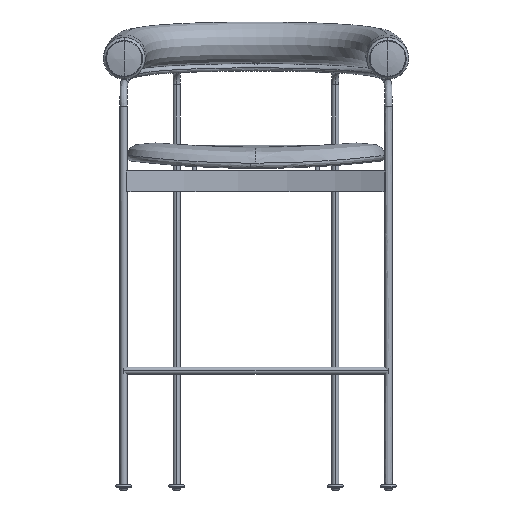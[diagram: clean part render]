
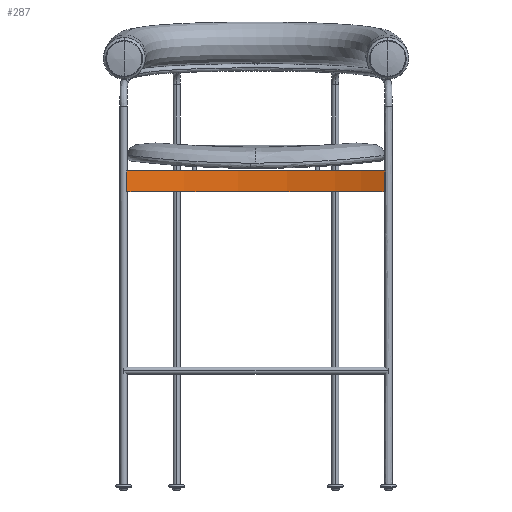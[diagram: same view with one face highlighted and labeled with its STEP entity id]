
A CAD part, front view. The second image highlights one B-rep face of the part: STEP entity #287.
In plain terms, the highlighted cylindrical face has radius 661.115 mm (diameter 1322.23 mm), a partial arc.
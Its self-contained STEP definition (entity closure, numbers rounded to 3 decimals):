
#287=ADVANCED_FACE('',(#467),#2303,.F.);
#467=FACE_OUTER_BOUND('',#647,.T.);
#647=EDGE_LOOP('',(#1024,#1025,#1026,#1027));
#1024=ORIENTED_EDGE('',*,*,#1544,.T.);
#1025=ORIENTED_EDGE('',*,*,#1553,.F.);
#1026=ORIENTED_EDGE('',*,*,#1545,.T.);
#1027=ORIENTED_EDGE('',*,*,#1552,.T.);
#1544=EDGE_CURVE('',#2166,#2167,#1914,.T.);
#1545=EDGE_CURVE('',#2168,#2169,#1915,.T.);
#1552=EDGE_CURVE('',#2169,#2166,#1922,.T.);
#1553=EDGE_CURVE('',#2168,#2167,#1923,.T.);
#1914=(
BOUNDED_CURVE()
B_SPLINE_CURVE(3,(#4252,#4253,#4254,#4255),.UNSPECIFIED.,.F.,.F.)
B_SPLINE_CURVE_WITH_KNOTS((4,4),(364.952,404.952),
 .UNSPECIFIED.)
CURVE()
GEOMETRIC_REPRESENTATION_ITEM()
RATIONAL_B_SPLINE_CURVE((1.,1.,1.,1.))
REPRESENTATION_ITEM('')
);
#1915=(
BOUNDED_CURVE()
B_SPLINE_CURVE(3,(#4256,#4257,#4258,#4259),.UNSPECIFIED.,.F.,.F.)
B_SPLINE_CURVE_WITH_KNOTS((4,4),(169.866,209.866),
 .UNSPECIFIED.)
CURVE()
GEOMETRIC_REPRESENTATION_ITEM()
RATIONAL_B_SPLINE_CURVE((1.,1.,1.,1.))
REPRESENTATION_ITEM('')
);
#1922=(
BOUNDED_CURVE()
B_SPLINE_CURVE(2,(#4286,#4287,#4288),.UNSPECIFIED.,.F.,.F.)
B_SPLINE_CURVE_WITH_KNOTS((3,3),(1063.964,1573.339),
 .UNSPECIFIED.)
CURVE()
GEOMETRIC_REPRESENTATION_ITEM()
RATIONAL_B_SPLINE_CURVE((1.,0.928,1.))
REPRESENTATION_ITEM('')
);
#1923=(
BOUNDED_CURVE()
B_SPLINE_CURVE(2,(#4289,#4290,#4291),.UNSPECIFIED.,.F.,.F.)
B_SPLINE_CURVE_WITH_KNOTS((3,3),(1063.964,1573.339),
 .UNSPECIFIED.)
CURVE()
GEOMETRIC_REPRESENTATION_ITEM()
RATIONAL_B_SPLINE_CURVE((1.,0.928,1.))
REPRESENTATION_ITEM('')
);
#2166=VERTEX_POINT('',#4240);
#2167=VERTEX_POINT('',#4241);
#2168=VERTEX_POINT('',#4242);
#2169=VERTEX_POINT('',#4243);
#2303=CYLINDRICAL_SURFACE('',#2470,661.115);
#2470=AXIS2_PLACEMENT_3D('',#4231,#2582,$);
#2582=DIRECTION('',(0.,0.,-1.));
#4231=CARTESIAN_POINT('',(4532.367,1221.891,585.));
#4240=CARTESIAN_POINT('',(4779.141,1835.222,565.));
#4241=CARTESIAN_POINT('',(4779.141,1835.222,605.));
#4242=CARTESIAN_POINT('',(4285.591,1835.221,605.));
#4243=CARTESIAN_POINT('',(4285.591,1835.221,565.));
#4252=CARTESIAN_POINT('',(4779.141,1835.222,565.));
#4253=CARTESIAN_POINT('',(4779.141,1835.222,578.334));
#4254=CARTESIAN_POINT('',(4779.141,1835.222,591.667));
#4255=CARTESIAN_POINT('',(4779.141,1835.222,605.));
#4256=CARTESIAN_POINT('',(4285.591,1835.221,605.));
#4257=CARTESIAN_POINT('',(4285.591,1835.221,591.667));
#4258=CARTESIAN_POINT('',(4285.591,1835.221,578.334));
#4259=CARTESIAN_POINT('',(4285.591,1835.221,565.));
#4286=CARTESIAN_POINT('',(4285.591,1835.221,565.));
#4287=CARTESIAN_POINT('',(4532.366,1934.512,565.));
#4288=CARTESIAN_POINT('',(4779.141,1835.222,565.));
#4289=CARTESIAN_POINT('',(4285.591,1835.221,605.));
#4290=CARTESIAN_POINT('',(4532.366,1934.512,605.));
#4291=CARTESIAN_POINT('',(4779.141,1835.222,605.));
